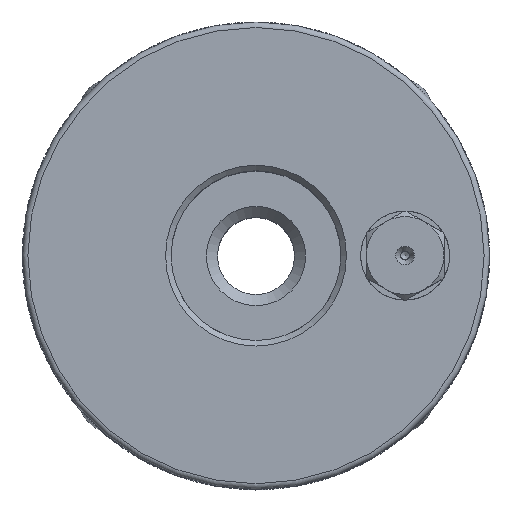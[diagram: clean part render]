
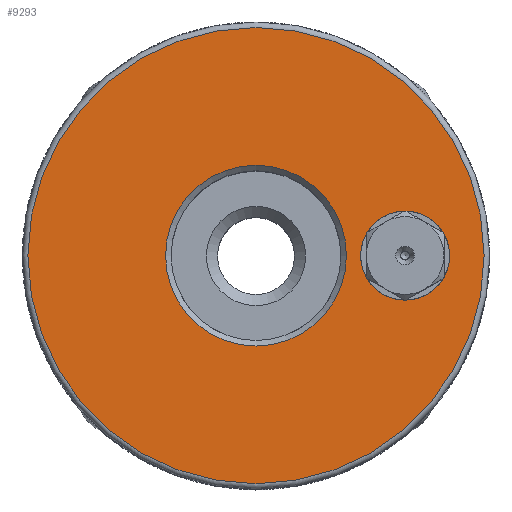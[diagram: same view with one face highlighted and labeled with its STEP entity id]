
A CAD part, top view. The second image highlights one B-rep face of the part: STEP entity #9293.
In plain terms, the highlighted planar face has unit normal (0, 0, 1).
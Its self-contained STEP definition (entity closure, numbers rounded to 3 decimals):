
#4567=ORIENTED_EDGE('',*,*,#6010,.T.);
#4568=ORIENTED_EDGE('',*,*,#6011,.T.);
#4569=ORIENTED_EDGE('',*,*,#6012,.F.);
#6010=EDGE_CURVE('',#6938,#6938,#7311,.T.);
#6011=EDGE_CURVE('',#6939,#6939,#7312,.F.);
#6012=EDGE_CURVE('',#6940,#6940,#7313,.T.);
#6938=VERTEX_POINT('',#15726);
#6939=VERTEX_POINT('',#15728);
#6940=VERTEX_POINT('',#15730);
#7311=CIRCLE('',#10157,16.25);
#7312=CIRCLE('',#10158,41.);
#7313=CIRCLE('',#10159,8.);
#7842=EDGE_LOOP('',(#4567));
#7843=EDGE_LOOP('',(#4568));
#7844=EDGE_LOOP('',(#4569));
#8444=FACE_BOUND('',#7842,.T.);
#8445=FACE_BOUND('',#7843,.T.);
#8446=FACE_BOUND('',#7844,.T.);
#8850=PLANE('',#10156);
#9293=ADVANCED_FACE('',(#8444,#8445,#8446),#8850,.F.);
#10156=AXIS2_PLACEMENT_3D('',#15724,#12624,#12625);
#10157=AXIS2_PLACEMENT_3D('',#15725,#12626,#12627);
#10158=AXIS2_PLACEMENT_3D('',#15727,#12628,#12629);
#10159=AXIS2_PLACEMENT_3D('',#15729,#12630,#12631);
#12624=DIRECTION('',(0.,0.,-1.));
#12625=DIRECTION('',(-1.,0.,0.));
#12626=DIRECTION('',(0.,0.,-1.));
#12627=DIRECTION('',(-1.,0.,0.));
#12628=DIRECTION('',(0.,0.,-1.));
#12629=DIRECTION('',(-1.,0.,0.));
#12630=DIRECTION('',(0.,0.,1.));
#12631=DIRECTION('',(1.,0.,0.));
#15724=CARTESIAN_POINT('',(42.,0.,42.));
#15725=CARTESIAN_POINT('',(0.,0.,42.));
#15726=CARTESIAN_POINT('',(-16.25,0.,42.));
#15727=CARTESIAN_POINT('',(0.,0.,42.));
#15728=CARTESIAN_POINT('',(-41.,0.,42.));
#15729=CARTESIAN_POINT('',(26.8,0.,42.));
#15730=CARTESIAN_POINT('',(34.8,0.,42.));
